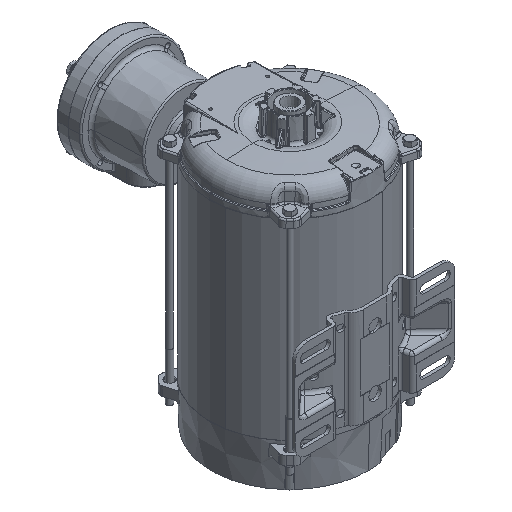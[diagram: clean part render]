
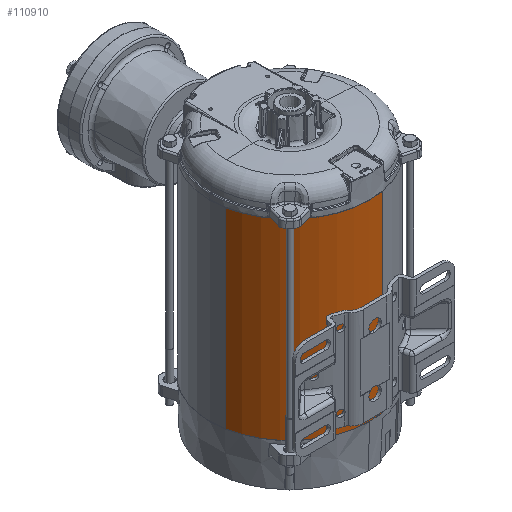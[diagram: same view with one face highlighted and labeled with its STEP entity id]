
A CAD part, isometric view. The second image highlights one B-rep face of the part: STEP entity #110910.
In plain terms, the highlighted cylindrical face has radius 82.413 mm (diameter 164.826 mm), a partial arc.
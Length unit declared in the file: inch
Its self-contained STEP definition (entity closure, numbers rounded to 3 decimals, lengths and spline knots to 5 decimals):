
#9686 = CARTESIAN_POINT ( 'NONE',  ( 0.5624, -3.19549, 3.905 ) ) ;
#10596 = LINE ( 'NONE', #119142, #33505 ) ;
#11733 = ORIENTED_EDGE ( 'NONE', *, *, #32222, .T. ) ;
#15066 = DIRECTION ( 'NONE',  ( -0.985, -0.174, 0. ) ) ;
#23807 = ORIENTED_EDGE ( 'NONE', *, *, #68324, .T. ) ;
#24160 = AXIS2_PLACEMENT_3D ( 'NONE', #48579, #93827, #15066 ) ;
#29035 = ORIENTED_EDGE ( 'NONE', *, *, #129980, .T. ) ;
#32222 = EDGE_CURVE ( 'NONE', #133340, #59021, #47934, .T. ) ;
#33505 = VECTOR ( 'NONE', #86335, 39.37008 ) ;
#47934 = LINE ( 'NONE', #143604, #77873 ) ;
#48579 = CARTESIAN_POINT ( 'NONE',  ( 0., 0., 25.50339 ) ) ;
#53334 = DIRECTION ( 'NONE',  ( 0., 0., -1. ) ) ;
#59021 = VERTEX_POINT ( 'NONE', #72150 ) ;
#64842 = CARTESIAN_POINT ( 'NONE',  ( 0., 0., -3.905 ) ) ;
#66253 = VERTEX_POINT ( 'NONE', #68732 ) ;
#68324 = EDGE_CURVE ( 'NONE', #117039, #133340, #136942, .T. ) ;
#68732 = CARTESIAN_POINT ( 'NONE',  ( 0.5624, -3.19549, -3.905 ) ) ;
#72150 = CARTESIAN_POINT ( 'NONE',  ( -3.19531, -0.56342, -3.905 ) ) ;
#76129 = DIRECTION ( 'NONE',  ( -1., 0., 0. ) ) ;
#77867 = CIRCLE ( 'NONE', #123179, 3.2446 ) ;
#77873 = VECTOR ( 'NONE', #87820, 39.37008 ) ;
#80904 = AXIS2_PLACEMENT_3D ( 'NONE', #120539, #53334, #131827 ) ;
#86335 = DIRECTION ( 'NONE',  ( 0., 0., 1. ) ) ;
#87820 = DIRECTION ( 'NONE',  ( 0., 0., -1. ) ) ;
#93827 = DIRECTION ( 'NONE',  ( 0., 0., -1. ) ) ;
#99026 = FACE_OUTER_BOUND ( 'NONE', #109435, .T. ) ;
#109435 = EDGE_LOOP ( 'NONE', ( #23807, #11733, #29035, #122256 ) ) ;
#110440 = CARTESIAN_POINT ( 'NONE',  ( -3.19531, -0.56342, 3.905 ) ) ;
#110910 = ADVANCED_FACE ( 'NONE', ( #99026 ), #125274, .T. ) ;
#117039 = VERTEX_POINT ( 'NONE', #9686 ) ;
#119142 = CARTESIAN_POINT ( 'NONE',  ( 0.5624, -3.19549, 25.50339 ) ) ;
#120539 = CARTESIAN_POINT ( 'NONE',  ( 0., 0., 3.905 ) ) ;
#122256 = ORIENTED_EDGE ( 'NONE', *, *, #131892, .T. ) ;
#123179 = AXIS2_PLACEMENT_3D ( 'NONE', #64842, #143242, #76129 ) ;
#125274 = CYLINDRICAL_SURFACE ( 'NONE', #24160, 3.2446 ) ;
#129980 = EDGE_CURVE ( 'NONE', #59021, #66253, #77867, .T. ) ;
#131827 = DIRECTION ( 'NONE',  ( 1., 0., 0. ) ) ;
#131892 = EDGE_CURVE ( 'NONE', #66253, #117039, #10596, .T. ) ;
#133340 = VERTEX_POINT ( 'NONE', #110440 ) ;
#136942 = CIRCLE ( 'NONE', #80904, 3.2446 ) ;
#143242 = DIRECTION ( 'NONE',  ( 0., 0., 1. ) ) ;
#143604 = CARTESIAN_POINT ( 'NONE',  ( -3.19531, -0.56342, 25.50339 ) ) ;
